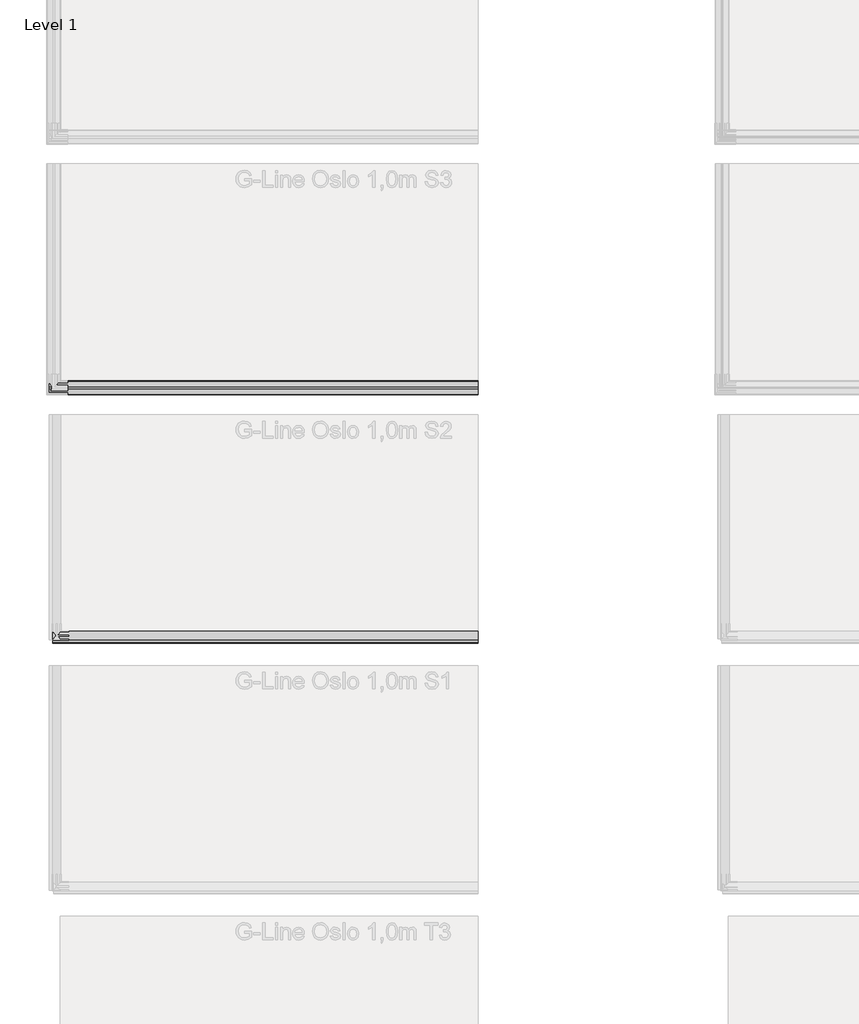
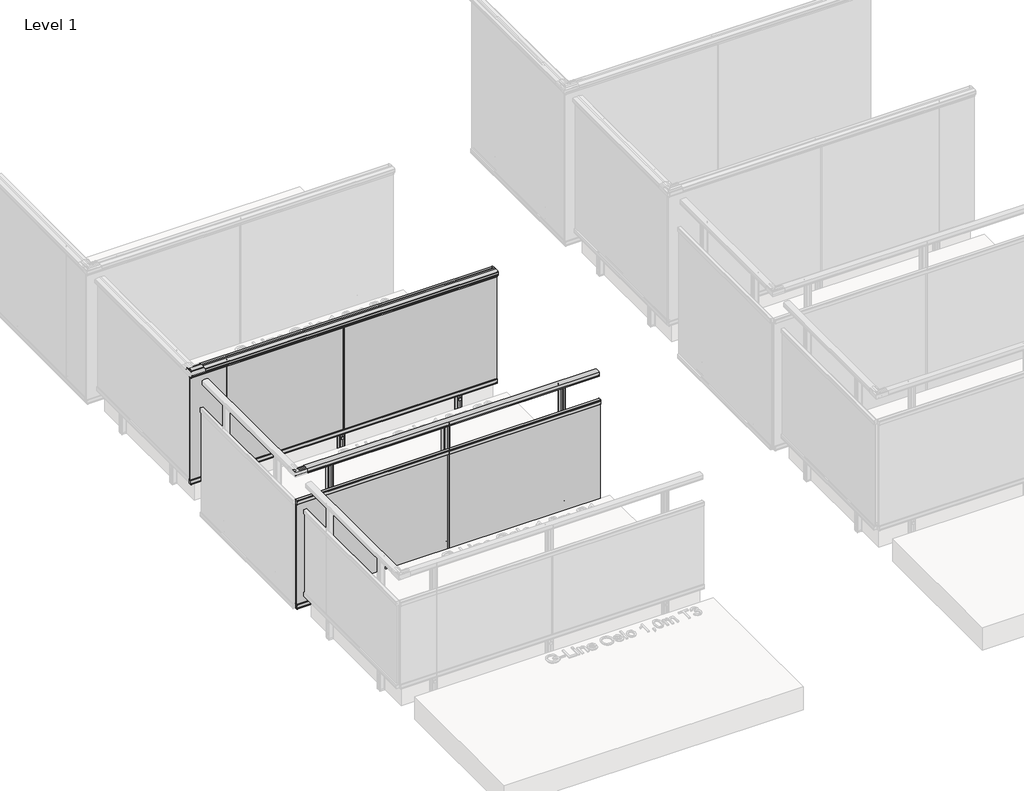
# One storey, part 32 of 66: 2 railings.
"""IFC4 building model written with IfcOpenShell, lengths in millimetres."""

from ifc_helpers import new_model, si_unit, point, frame, frame_2d, origin, origin_with_axes, place, context, project, spatial, polyline, circle_curve, trimmed, segment, composite_curve, outline, extrude, element, save

model = new_model("IFC4")

# Units and contexts
model_context = context("Model", 3, world=origin())
ifc_project = project(units=[si_unit("LENGTHUNIT", "METRE", prefix="MILLI")], contexts=[model_context])

# Site, building, storey
site = spatial("IfcSite", under=ifc_project)
building = spatial("IfcBuilding", under=site)
storey = spatial("IfcBuildingStorey", under=building, Name="Level 1", Elevation=0.0)

# Railings
placement = place(None, origin())
element("IfcRailing", 1, ObjectType="G-Line Oslo 1,0m  S2", at=placement, inside=storey, context=model_context, shape_type="SweptSolid", body=[
    extrude(outline(composite_curve([segment(trimmed(circle_curve(frame_2d((14109.563828, 942.6785502)), 57.3235687), [point((14084.3088677, 994.1390059))], [point((14134.828526, 994.1342258))], False, "CARTESIAN"), True, "CONTINUOUS"), segment(polyline([(14134.828526, 994.1342258), (14134.828526, 967.0235023), (14134.2465942, 966.4415706), (14134.8686753, 965.8194895), (14134.8686753, 957.2498847), (14133.0637224, 957.2498847), (14133.0637224, 980.4998829), (14086.0686763, 980.4998829), (14086.0686763, 957.2498847), (14084.3088677, 957.2498847), (14084.3088677, 965.9694895), (14084.9236507, 966.5842725), (14084.3088677, 967.1990555), (14084.3088677, 994.1390059)]), True, "CONTINUOUS")], self_intersect=False)), frame((4459.0547322, 0.0, 0.0), z_axis=(1.0, 0.0, 0.0), x_axis=(0.0, 1.0, 0.0)), (0.0, 0.0, 1.0), 2545.0),
    extrude(outline(composite_curve([segment(polyline([(14082.0487504, 723.0), (14072.5287505, 723.0), (14065.2886441, 723.0)]), True, "CONTINUOUS"), segment(trimmed(circle_curve(frame_2d((14065.2886441, 723.5)), 0.5), [point((14065.2886441, 723.0))], [point((14064.7886441, 723.5))], False, "CARTESIAN"), True, "CONTINUOUS"), segment(polyline([(14064.7886441, 723.5), (14064.7886441, 751.4642612), (14065.2520415, 752.5008136), (14064.8288365, 753.3802866), (14064.7886441, 758.5)]), True, "CONTINUOUS"), segment(trimmed(circle_curve(frame_2d((14066.2886441, 758.5)), 1.5), [point((14064.7886441, 758.5))], [point((14066.2886441, 760.0))], False, "CARTESIAN"), True, "CONTINUOUS"), segment(polyline([(14066.2886441, 760.0), (14088.2886441, 760.0)]), True, "CONTINUOUS"), segment(trimmed(circle_curve(frame_2d((14088.2886441, 758.5)), 1.5), [point((14088.2886441, 760.0))], [point((14089.7886441, 758.5))], False, "CARTESIAN"), True, "CONTINUOUS"), segment(polyline([(14089.7886441, 758.5), (14089.7886441, 753.5302866), (14089.3252466, 752.5701988), (14089.7484517, 751.6142612), (14089.7484517, 723.6964102)]), True, "CONTINUOUS"), segment(trimmed(circle_curve(frame_2d((14089.2886441, 723.5)), 0.5), [point((14089.7484517, 723.6964102))], [point((14089.2886441, 723.0))], False, "CARTESIAN"), True, "CONTINUOUS"), segment(polyline([(14089.2886441, 723.0), (14082.0487504, 723.0)]), True, "CONTINUOUS")], self_intersect=False)), frame((4459.0547322, 0.0, 0.0), z_axis=(1.0, 0.0, 0.0), x_axis=(0.0, 1.0, 0.0)), (0.0, 0.0, 1.0), 2545.0),
    extrude(outline(polyline([(7004.0547322, 14081.6686441), (7004.0547322, 14072.9086441), (4459.0547322, 14072.9086441), (4459.0547322, 14081.6686441), (7004.0547322, 14081.6686441)])), frame((0.0, 0.0, -200.0), z_axis=(0.0, 0.0, 1.0), x_axis=(1.0, 0.0, 0.0)), (0.0, 0.0, 1.0), 945.0),
    extrude(outline(composite_curve([segment(polyline([(14072.5285377, -163.0), (14082.0485377, -163.0), (14089.2886441, -163.0)]), True, "CONTINUOUS"), segment(trimmed(circle_curve(frame_2d((14089.2886441, -163.5)), 0.5), [point((14089.2886441, -163.0))], [point((14089.7886441, -163.5))], False, "CARTESIAN"), True, "CONTINUOUS"), segment(polyline([(14089.7886441, -163.5), (14089.7886441, -191.4642612), (14089.3252466, -192.5008136), (14089.7484517, -193.3802866), (14089.7886441, -198.5)]), True, "CONTINUOUS"), segment(trimmed(circle_curve(frame_2d((14088.2886441, -198.5)), 1.5), [point((14089.7886441, -198.5))], [point((14088.2886441, -200.0))], False, "CARTESIAN"), True, "CONTINUOUS"), segment(polyline([(14088.2886441, -200.0), (14066.2886441, -200.0)]), True, "CONTINUOUS"), segment(trimmed(circle_curve(frame_2d((14066.2886441, -198.5)), 1.5), [point((14066.2886441, -200.0))], [point((14064.7886441, -198.5))], False, "CARTESIAN"), True, "CONTINUOUS"), segment(polyline([(14064.7886441, -198.5), (14064.7886441, -193.5302866), (14065.2520415, -192.5701988), (14064.8288365, -191.6142612), (14064.8288365, -163.6964102)]), True, "CONTINUOUS"), segment(trimmed(circle_curve(frame_2d((14065.2886441, -163.5)), 0.5), [point((14064.8288365, -163.6964102))], [point((14065.2886441, -163.0))], False, "CARTESIAN"), True, "CONTINUOUS"), segment(polyline([(14065.2886441, -163.0), (14072.5285377, -163.0)]), True, "CONTINUOUS")], self_intersect=False)), frame((4459.0547322, 0.0, 0.0), z_axis=(1.0, 0.0, 0.0), x_axis=(0.0, 1.0, 0.0)), (0.0, 0.0, 1.0), 2545.0),
    extrude(outline(polyline([(5735.5547322, 14070.2118492), (5727.5547322, 14070.2118492), (5727.5547322, 14078.2118492), (5735.5547322, 14078.2118492), (5735.5547322, 14070.2118492)])), frame((0.0, 0.0, -200.0), z_axis=(0.0, 0.0, 1.0), x_axis=(1.0, 0.0, 0.0)), (0.0, 0.0, 1.0), 923.0),
    extrude(outline(composite_curve([segment(trimmed(circle_curve(frame_2d((0.0, -12.0)), 12.0), [point((0.0, -23.9999999))], [point((0.0, 0.0))], False, "CARTESIAN"), True, "CONTINUOUS"), segment(trimmed(circle_curve(frame_2d((0.0, -12.0)), 12.0), [point((0.0, 0.0))], [point((0.0, -23.9999999))], False, "CARTESIAN"), True, "CONTINUOUS")], self_intersect=False)), frame((5743.5650091, 14084.7534315, -175.0), z_axis=(-0.0004029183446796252, 0.9999999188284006, 0.0), x_axis=(0.0, 0.0, 1.0)), (0.0, 0.0, 1.0), 3.0757477),
    extrude(outline(composite_curve([segment(trimmed(circle_curve(frame_2d((0.0, -12.0)), 12.0), [point((0.0, -23.9999999))], [point((0.0, 0.0))], False, "CARTESIAN"), True, "CONTINUOUS"), segment(trimmed(circle_curve(frame_2d((0.0, -12.0)), 12.0), [point((0.0, 0.0))], [point((0.0, -23.9999999))], False, "CARTESIAN"), True, "CONTINUOUS")], self_intersect=False)), frame((5743.5650091, 14084.7534315, -50.0), z_axis=(-0.0004029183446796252, 0.9999999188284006, 0.0), x_axis=(0.0, 0.0, 1.0)), (0.0, 0.0, 1.0), 3.0757477),
    extrude(outline(composite_curve([segment(trimmed(circle_curve(frame_2d((5711.0547322, 14089.7886441)), 2.5), [point((5711.0547322, 14087.2886441))], [point((5708.5547322, 14089.7886441))], False, "CARTESIAN"), True, "CONTINUOUS"), segment(polyline([(5708.5547322, 14089.7886441), (5708.5547322, 14130.7886441)]), True, "CONTINUOUS"), segment(trimmed(circle_curve(frame_2d((5711.0547322, 14130.7886441)), 2.5), [point((5708.5547322, 14130.7886441))], [point((5711.0547322, 14133.2886441))], False, "CARTESIAN"), True, "CONTINUOUS"), segment(polyline([(5711.0547322, 14133.2886441), (5730.6315272, 14133.2886441), (5731.5547322, 14132.365439), (5732.4377449, 14133.2484517), (5752.0547322, 14133.2886441)]), True, "CONTINUOUS"), segment(trimmed(circle_curve(frame_2d((5752.0547322, 14130.7886441)), 2.5), [point((5752.0547322, 14133.2886441))], [point((5754.5547322, 14130.7886441))], False, "CARTESIAN"), True, "CONTINUOUS"), segment(polyline([(5754.5547322, 14130.7886441), (5754.5547322, 14089.7886441)]), True, "CONTINUOUS"), segment(trimmed(circle_curve(frame_2d((5752.0547322, 14089.7886441)), 2.5), [point((5754.5547322, 14089.7886441))], [point((5752.0547322, 14087.2886441))], False, "CARTESIAN"), True, "CONTINUOUS"), segment(polyline([(5752.0547322, 14087.2886441), (5732.4377449, 14087.3288365), (5731.5547322, 14088.2118492), (5730.6717195, 14087.3288365), (5711.0547322, 14087.2886441)]), True, "CONTINUOUS")], self_intersect=False), holes=[composite_curve([segment(trimmed(circle_curve(frame_2d((5749.5547322, 14128.2886441)), 1.0), [point((5750.5547322, 14128.2886441))], [point((5749.5547322, 14129.2886441))], True, "CARTESIAN"), True, "CONTINUOUS"), segment(polyline([(5749.5547322, 14129.2886441), (5713.5547322, 14129.2886441)]), True, "CONTINUOUS"), segment(trimmed(circle_curve(frame_2d((5713.5547322, 14128.2886441)), 1.0), [point((5713.5547322, 14129.2886441))], [point((5712.5547322, 14128.2886441))], True, "CARTESIAN"), True, "CONTINUOUS"), segment(polyline([(5712.5547322, 14128.2886441), (5712.5547322, 14092.2886441)]), True, "CONTINUOUS"), segment(trimmed(circle_curve(frame_2d((5713.5547322, 14092.2886441)), 1.0), [point((5712.5547322, 14092.2886441))], [point((5713.5547322, 14091.2886441))], True, "CARTESIAN"), True, "CONTINUOUS"), segment(polyline([(5713.5547322, 14091.2886441), (5749.5547322, 14091.2886441)]), True, "CONTINUOUS"), segment(trimmed(circle_curve(frame_2d((5749.5547322, 14092.2886441)), 1.0), [point((5749.5547322, 14091.2886441))], [point((5750.5547322, 14092.2886441))], True, "CARTESIAN"), True, "CONTINUOUS"), segment(polyline([(5750.5547322, 14092.2886441), (5750.5547322, 14128.2886441)]), True, "CONTINUOUS")], self_intersect=False)]), frame((0.0, 0.0, -200.0), z_axis=(0.0, 0.0, 1.0), x_axis=(1.0, 0.0, 0.0)), (0.0, 0.0, 1.0), 1181.0),
    extrude(outline(composite_curve([segment(polyline([(4758.2519452, 14130.2886441), (4759.0547322, 14129.4858571), (4759.8225694, 14130.2536942), (4776.8808193, 14130.2886441)]), True, "CONTINUOUS"), segment(trimmed(circle_curve(frame_2d((4776.8808192, 14128.114731)), 2.173913), [point((4776.8808193, 14130.2886441))], [point((4779.0547322, 14128.114731))], False, "CARTESIAN"), True, "CONTINUOUS"), segment(polyline([(4779.0547322, 14128.114731), (4779.0547322, 14092.4625571)]), True, "CONTINUOUS"), segment(trimmed(circle_curve(frame_2d((4776.8808192, 14092.4625571)), 2.173913), [point((4779.0547322, 14092.4625571))], [point((4776.8808192, 14090.2886441))], False, "CARTESIAN"), True, "CONTINUOUS"), segment(polyline([(4776.8808192, 14090.2886441), (4759.8225694, 14090.323594), (4759.0547322, 14091.0914311), (4758.2868951, 14090.323594), (4741.2286453, 14090.2886441)]), True, "CONTINUOUS"), segment(trimmed(circle_curve(frame_2d((4741.2286453, 14092.4625571)), 2.173913), [point((4741.2286453, 14090.2886441))], [point((4739.0547322, 14092.4625571))], False, "CARTESIAN"), True, "CONTINUOUS"), segment(polyline([(4739.0547322, 14092.4625571), (4739.0547322, 14128.114731)]), True, "CONTINUOUS"), segment(trimmed(circle_curve(frame_2d((4741.2286453, 14128.114731)), 2.173913), [point((4739.0547322, 14128.114731))], [point((4741.2286453, 14130.2886441))], False, "CARTESIAN"), True, "CONTINUOUS"), segment(polyline([(4741.2286453, 14130.2886441), (4758.2519452, 14130.2886441)]), True, "CONTINUOUS")], self_intersect=False)), frame((0.0, 0.0, -200.0), z_axis=(0.0, 0.0, 1.0), x_axis=(1.0, 0.0, 0.0)), (0.0, 0.0, 1.0), 10.0),
    extrude(outline(composite_curve([segment(polyline([(4779.0547322, 14128.114731), (4779.0547322, 14092.4625571)]), True, "CONTINUOUS"), segment(trimmed(circle_curve(frame_2d((4776.8808192, 14092.4625571)), 2.173913), [point((4779.0547322, 14092.4625571))], [point((4776.8808192, 14090.2886441))], False, "CARTESIAN"), True, "CONTINUOUS"), segment(polyline([(4776.8808192, 14090.2886441), (4759.8225694, 14090.323594), (4759.0547322, 14091.0914311), (4758.2868951, 14090.323594), (4741.2286453, 14090.2886441)]), True, "CONTINUOUS"), segment(trimmed(circle_curve(frame_2d((4741.2286453, 14092.4625571)), 2.173913), [point((4741.2286453, 14090.2886441))], [point((4739.0547322, 14092.4625571))], False, "CARTESIAN"), True, "CONTINUOUS"), segment(polyline([(4739.0547322, 14092.4625571), (4739.0547322, 14128.114731)]), True, "CONTINUOUS"), segment(trimmed(circle_curve(frame_2d((4741.2286453, 14128.114731)), 2.173913), [point((4739.0547322, 14128.114731))], [point((4741.2286453, 14130.2886441))], False, "CARTESIAN"), True, "CONTINUOUS"), segment(polyline([(4741.2286453, 14130.2886441), (4758.1564603, 14130.2886441), (4758.9242975, 14129.8856898), (4759.8225694, 14130.2536942), (4776.8808192, 14130.2886441)]), True, "CONTINUOUS"), segment(trimmed(circle_curve(frame_2d((4776.8808192, 14128.114731)), 2.173913), [point((4776.8808192, 14130.2886441))], [point((4779.0547322, 14128.114731))], False, "CARTESIAN"), True, "CONTINUOUS")], self_intersect=False), holes=[composite_curve([segment(trimmed(circle_curve(frame_2d((4774.7069062, 14125.940818)), 0.8695652), [point((4775.5764714, 14125.940818))], [point((4774.7069062, 14126.8103832))], True, "CARTESIAN"), True, "CONTINUOUS"), segment(polyline([(4774.7069062, 14126.8103832), (4743.4025583, 14126.8103832)]), True, "CONTINUOUS"), segment(trimmed(circle_curve(frame_2d((4743.4025583, 14125.940818)), 0.8695652), [point((4743.4025583, 14126.8103832))], [point((4742.5329931, 14125.940818))], True, "CARTESIAN"), True, "CONTINUOUS"), segment(polyline([(4742.5329931, 14125.940818), (4742.5329931, 14094.6364702)]), True, "CONTINUOUS"), segment(trimmed(circle_curve(frame_2d((4743.4025583, 14094.6364702)), 0.8695652), [point((4742.5329931, 14094.6364702))], [point((4743.4025583, 14093.766905))], True, "CARTESIAN"), True, "CONTINUOUS"), segment(polyline([(4743.4025583, 14093.766905), (4774.7069062, 14093.766905)]), True, "CONTINUOUS"), segment(trimmed(circle_curve(frame_2d((4774.7069062, 14094.6364702)), 0.8695652), [point((4774.7069062, 14093.766905))], [point((4775.5764714, 14094.6364702))], True, "CARTESIAN"), True, "CONTINUOUS"), segment(polyline([(4775.5764714, 14094.6364702), (4775.5764714, 14125.940818)]), True, "CONTINUOUS")], self_intersect=False)]), frame((0.0, 0.0, -190.0), z_axis=(0.0, 0.0, 1.0), x_axis=(1.0, 0.0, 0.0)), (0.0, 0.0, 1.0), 1171.0),
    extrude(outline(composite_curve([segment(trimmed(circle_curve(frame_2d((0.0, -12.0)), 12.0), [point((0.0, -23.9999999))], [point((0.0, 0.0))], False, "CARTESIAN"), True, "CONTINUOUS"), segment(trimmed(circle_curve(frame_2d((0.0, -12.0)), 12.0), [point((0.0, 0.0))], [point((0.0, -23.9999999))], False, "CARTESIAN"), True, "CONTINUOUS")], self_intersect=False)), frame((4771.0650091, 14087.2248149, -151.0), z_axis=(-0.0004029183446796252, 0.9999999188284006, 0.0), x_axis=(0.0, 0.0, 1.0)), (0.0, 0.0, 1.0), 3.0757477),
    extrude(outline(composite_curve([segment(trimmed(circle_curve(frame_2d((0.0, -12.0)), 12.0), [point((0.0, -23.9999999))], [point((0.0, 0.0))], False, "CARTESIAN"), True, "CONTINUOUS"), segment(trimmed(circle_curve(frame_2d((0.0, -12.0)), 12.0), [point((0.0, 0.0))], [point((0.0, -23.9999999))], False, "CARTESIAN"), True, "CONTINUOUS")], self_intersect=False)), frame((4771.0650091, 14087.2248149, -50.0), z_axis=(-0.0004029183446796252, 0.9999999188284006, 0.0), x_axis=(0.0, 0.0, 1.0)), (0.0, 0.0, 1.0), 3.0757477),
    extrude(outline(composite_curve([segment(polyline([(6703.2519452, 14130.2886441), (6704.0547322, 14129.4858571), (6704.8225694, 14130.2536942), (6721.8808193, 14130.2886441)]), True, "CONTINUOUS"), segment(trimmed(circle_curve(frame_2d((6721.8808192, 14128.114731)), 2.173913), [point((6721.8808193, 14130.2886441))], [point((6724.0547322, 14128.114731))], False, "CARTESIAN"), True, "CONTINUOUS"), segment(polyline([(6724.0547322, 14128.114731), (6724.0547322, 14092.4625571)]), True, "CONTINUOUS"), segment(trimmed(circle_curve(frame_2d((6721.8808192, 14092.4625571)), 2.173913), [point((6724.0547322, 14092.4625571))], [point((6721.8808192, 14090.2886441))], False, "CARTESIAN"), True, "CONTINUOUS"), segment(polyline([(6721.8808192, 14090.2886441), (6704.8225694, 14090.323594), (6704.0547322, 14091.0914311), (6703.2868951, 14090.323594), (6686.2286453, 14090.2886441)]), True, "CONTINUOUS"), segment(trimmed(circle_curve(frame_2d((6686.2286453, 14092.4625571)), 2.173913), [point((6686.2286453, 14090.2886441))], [point((6684.0547322, 14092.4625571))], False, "CARTESIAN"), True, "CONTINUOUS"), segment(polyline([(6684.0547322, 14092.4625571), (6684.0547322, 14128.114731)]), True, "CONTINUOUS"), segment(trimmed(circle_curve(frame_2d((6686.2286453, 14128.114731)), 2.173913), [point((6684.0547322, 14128.114731))], [point((6686.2286453, 14130.2886441))], False, "CARTESIAN"), True, "CONTINUOUS"), segment(polyline([(6686.2286453, 14130.2886441), (6703.2519452, 14130.2886441)]), True, "CONTINUOUS")], self_intersect=False)), frame((0.0, 0.0, -200.0), z_axis=(0.0, 0.0, 1.0), x_axis=(1.0, 0.0, 0.0)), (0.0, 0.0, 1.0), 10.0),
    extrude(outline(composite_curve([segment(polyline([(6724.0547322, 14128.114731), (6724.0547322, 14092.4625571)]), True, "CONTINUOUS"), segment(trimmed(circle_curve(frame_2d((6721.8808192, 14092.4625571)), 2.173913), [point((6724.0547322, 14092.4625571))], [point((6721.8808192, 14090.2886441))], False, "CARTESIAN"), True, "CONTINUOUS"), segment(polyline([(6721.8808192, 14090.2886441), (6704.8225694, 14090.323594), (6704.0547322, 14091.0914311), (6703.2868951, 14090.323594), (6686.2286453, 14090.2886441)]), True, "CONTINUOUS"), segment(trimmed(circle_curve(frame_2d((6686.2286453, 14092.4625571)), 2.173913), [point((6686.2286453, 14090.2886441))], [point((6684.0547322, 14092.4625571))], False, "CARTESIAN"), True, "CONTINUOUS"), segment(polyline([(6684.0547322, 14092.4625571), (6684.0547322, 14128.114731)]), True, "CONTINUOUS"), segment(trimmed(circle_curve(frame_2d((6686.2286453, 14128.114731)), 2.173913), [point((6684.0547322, 14128.114731))], [point((6686.2286453, 14130.2886441))], False, "CARTESIAN"), True, "CONTINUOUS"), segment(polyline([(6686.2286453, 14130.2886441), (6703.1564603, 14130.2886441), (6703.9242975, 14129.8856898), (6704.8225694, 14130.2536942), (6721.8808192, 14130.2886441)]), True, "CONTINUOUS"), segment(trimmed(circle_curve(frame_2d((6721.8808192, 14128.114731)), 2.173913), [point((6721.8808192, 14130.2886441))], [point((6724.0547322, 14128.114731))], False, "CARTESIAN"), True, "CONTINUOUS")], self_intersect=False), holes=[composite_curve([segment(trimmed(circle_curve(frame_2d((6719.7069062, 14125.940818)), 0.8695652), [point((6720.5764714, 14125.940818))], [point((6719.7069062, 14126.8103832))], True, "CARTESIAN"), True, "CONTINUOUS"), segment(polyline([(6719.7069062, 14126.8103832), (6688.4025583, 14126.8103832)]), True, "CONTINUOUS"), segment(trimmed(circle_curve(frame_2d((6688.4025583, 14125.940818)), 0.8695652), [point((6688.4025583, 14126.8103832))], [point((6687.5329931, 14125.940818))], True, "CARTESIAN"), True, "CONTINUOUS"), segment(polyline([(6687.5329931, 14125.940818), (6687.5329931, 14094.6364702)]), True, "CONTINUOUS"), segment(trimmed(circle_curve(frame_2d((6688.4025583, 14094.6364702)), 0.8695652), [point((6687.5329931, 14094.6364702))], [point((6688.4025583, 14093.766905))], True, "CARTESIAN"), True, "CONTINUOUS"), segment(polyline([(6688.4025583, 14093.766905), (6719.7069062, 14093.766905)]), True, "CONTINUOUS"), segment(trimmed(circle_curve(frame_2d((6719.7069062, 14094.6364702)), 0.8695652), [point((6719.7069062, 14093.766905))], [point((6720.5764714, 14094.6364702))], True, "CARTESIAN"), True, "CONTINUOUS"), segment(polyline([(6720.5764714, 14094.6364702), (6720.5764714, 14125.940818)]), True, "CONTINUOUS")], self_intersect=False)]), frame((0.0, 0.0, -190.0), z_axis=(0.0, 0.0, 1.0), x_axis=(1.0, 0.0, 0.0)), (0.0, 0.0, 1.0), 1171.0),
    extrude(outline(composite_curve([segment(trimmed(circle_curve(frame_2d((0.0, -12.0)), 12.0), [point((0.0, -23.9999999))], [point((0.0, 0.0))], False, "CARTESIAN"), True, "CONTINUOUS"), segment(trimmed(circle_curve(frame_2d((0.0, -12.0)), 12.0), [point((0.0, 0.0))], [point((0.0, -23.9999999))], False, "CARTESIAN"), True, "CONTINUOUS")], self_intersect=False)), frame((6716.0650091, 14087.2248149, -151.0), z_axis=(-0.0004029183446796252, 0.9999999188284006, 0.0), x_axis=(0.0, 0.0, 1.0)), (0.0, 0.0, 1.0), 3.0757477),
    extrude(outline(composite_curve([segment(trimmed(circle_curve(frame_2d((0.0, -12.0)), 12.0), [point((0.0, -23.9999999))], [point((0.0, 0.0))], False, "CARTESIAN"), True, "CONTINUOUS"), segment(trimmed(circle_curve(frame_2d((0.0, -12.0)), 12.0), [point((0.0, 0.0))], [point((0.0, -23.9999999))], False, "CARTESIAN"), True, "CONTINUOUS")], self_intersect=False)), frame((6716.0650091, 14087.2248149, -50.0), z_axis=(-0.0004029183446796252, 0.9999999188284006, 0.0), x_axis=(0.0, 0.0, 1.0)), (0.0, 0.0, 1.0), 3.0757477),
])
element("IfcRailing", 2, ObjectType="G-Line Oslo 1,0m  S3", at=placement, inside=storey, context=model_context, shape_type="SweptSolid", body=[
    extrude(outline(composite_curve([segment(polyline([(15632.289348, 970.6825033), (15631.6638671, 970.0570224), (15632.2491556, 969.4717338), (15632.289348, 965.5021186)]), True, "CONTINUOUS"), segment(trimmed(circle_curve(frame_2d((15631.789348, 965.5021186)), 0.5), [point((15632.289348, 965.5021186))], [point((15631.789348, 965.0021186))], False, "CARTESIAN"), True, "CONTINUOUS"), segment(polyline([(15631.789348, 965.0021186), (15630.789348, 965.0021186), (15630.789348, 979.5021186)]), True, "CONTINUOUS"), segment(trimmed(circle_curve(frame_2d((15630.289348, 979.5021186)), 0.5), [point((15630.789348, 979.5021186))], [point((15630.289348, 980.0021186))], True, "CARTESIAN"), True, "CONTINUOUS"), segment(polyline([(15630.289348, 980.0021186), (15552.289348, 980.0021186)]), True, "CONTINUOUS"), segment(trimmed(circle_curve(frame_2d((15552.289348, 979.5021186)), 0.5), [point((15552.289348, 980.0021186))], [point((15551.789348, 979.5021186))], True, "CARTESIAN"), True, "CONTINUOUS"), segment(polyline([(15551.789348, 979.5021186), (15551.789348, 965.0021186), (15550.789348, 965.0021186)]), True, "CONTINUOUS"), segment(trimmed(circle_curve(frame_2d((15550.789348, 965.5021186)), 0.5), [point((15550.789348, 965.0021186))], [point((15550.289348, 965.5021186))], False, "CARTESIAN"), True, "CONTINUOUS"), segment(polyline([(15550.289348, 965.5021186), (15550.289348, 969.2627449), (15550.9443234, 969.9177203), (15550.3295404, 970.5325033), (15550.289348, 991.2139911)]), True, "CONTINUOUS"), segment(trimmed(circle_curve(frame_2d((15553.289348, 991.2139911)), 3.0), [point((15550.289348, 991.2139911))], [point((15552.2228567, 994.0180233))], False, "CARTESIAN"), True, "CONTINUOUS"), segment(trimmed(circle_curve(frame_2d((15584.789348, 908.3938053)), 91.6083133), [point((15552.2228567, 994.0180233))], [point((15584.789348, 1000.0021186))], False, "CARTESIAN"), True, "CONTINUOUS"), segment(polyline([(15584.789348, 1000.0021186), (15597.789348, 1000.0021186)]), True, "CONTINUOUS"), segment(trimmed(circle_curve(frame_2d((15597.789348, 908.3938053)), 91.6083133), [point((15597.789348, 1000.0021186))], [point((15630.3558394, 994.0180233))], False, "CARTESIAN"), True, "CONTINUOUS"), segment(trimmed(circle_curve(frame_2d((15629.289348, 991.2139911)), 3.0), [point((15630.3558394, 994.0180233))], [point((15632.289348, 991.2139911))], False, "CARTESIAN"), True, "CONTINUOUS"), segment(polyline([(15632.289348, 991.2139911), (15632.289348, 970.6825033)]), True, "CONTINUOUS")], self_intersect=False)), frame((4438.5547322, 0.0, 0.0), z_axis=(1.0, 0.0, 0.0), x_axis=(0.0, 1.0, 0.0)), (0.0, 0.0, 1.0), 2565.5),
    extrude(outline(composite_curve([segment(polyline([(15582.0487504, 941.0), (15572.5287505, 941.0), (15565.2886441, 941.0)]), True, "CONTINUOUS"), segment(trimmed(circle_curve(frame_2d((15565.2886441, 941.5)), 0.5), [point((15565.2886441, 941.0))], [point((15564.7886441, 941.5))], False, "CARTESIAN"), True, "CONTINUOUS"), segment(polyline([(15564.7886441, 941.5), (15564.7886441, 969.4642612), (15565.2520415, 970.5008136), (15564.8288365, 971.3802866), (15564.7886441, 976.5)]), True, "CONTINUOUS"), segment(trimmed(circle_curve(frame_2d((15566.2886441, 976.5)), 1.5), [point((15564.7886441, 976.5))], [point((15566.2886441, 978.0))], False, "CARTESIAN"), True, "CONTINUOUS"), segment(polyline([(15566.2886441, 978.0), (15588.2886441, 978.0)]), True, "CONTINUOUS"), segment(trimmed(circle_curve(frame_2d((15588.2886441, 976.5)), 1.5), [point((15588.2886441, 978.0))], [point((15589.7886441, 976.5))], False, "CARTESIAN"), True, "CONTINUOUS"), segment(polyline([(15589.7886441, 976.5), (15589.7886441, 971.5302866), (15589.3252466, 970.5701988), (15589.7484517, 969.6142612), (15589.7484517, 941.6964102)]), True, "CONTINUOUS"), segment(trimmed(circle_curve(frame_2d((15589.2886441, 941.5)), 0.5), [point((15589.7484517, 941.6964102))], [point((15589.2886441, 941.0))], False, "CARTESIAN"), True, "CONTINUOUS"), segment(polyline([(15589.2886441, 941.0), (15582.0487504, 941.0)]), True, "CONTINUOUS")], self_intersect=False)), frame((4438.5547322, 0.0, 0.0), z_axis=(1.0, 0.0, 0.0), x_axis=(0.0, 1.0, 0.0)), (0.0, 0.0, 1.0), 2565.5),
    extrude(outline(polyline([(7004.0547322, 15581.6686441), (7004.0547322, 15572.9086441), (4438.5547322, 15572.9086441), (4438.5547322, 15581.6686441), (7004.0547322, 15581.6686441)])), frame((0.0, 0.0, 28.0), z_axis=(0.0, 0.0, 1.0), x_axis=(1.0, 0.0, 0.0)), (0.0, 0.0, 1.0), 952.0),
    extrude(outline(composite_curve([segment(polyline([(15572.5285377, 37.0), (15582.0485377, 37.0), (15589.2886441, 37.0)]), True, "CONTINUOUS"), segment(trimmed(circle_curve(frame_2d((15589.2886441, 36.5)), 0.5), [point((15589.2886441, 37.0))], [point((15589.7886441, 36.5))], False, "CARTESIAN"), True, "CONTINUOUS"), segment(polyline([(15589.7886441, 36.5), (15589.7886441, 8.5357388), (15589.3252466, 7.4991864), (15589.7484517, 6.6197134), (15589.7886441, 1.5)]), True, "CONTINUOUS"), segment(trimmed(circle_curve(frame_2d((15588.2886441, 1.5)), 1.5), [point((15589.7886441, 1.5))], [point((15588.2886441, 0.0))], False, "CARTESIAN"), True, "CONTINUOUS"), segment(polyline([(15588.2886441, 0.0), (15566.2886441, 0.0)]), True, "CONTINUOUS"), segment(trimmed(circle_curve(frame_2d((15566.2886441, 1.5)), 1.5), [point((15566.2886441, 0.0))], [point((15564.7886441, 1.5))], False, "CARTESIAN"), True, "CONTINUOUS"), segment(polyline([(15564.7886441, 1.5), (15564.7886441, 6.4697134), (15565.2520415, 7.4298012), (15564.8288365, 8.3857388), (15564.8288365, 36.3035898)]), True, "CONTINUOUS"), segment(trimmed(circle_curve(frame_2d((15565.2886441, 36.5)), 0.5), [point((15564.8288365, 36.3035898))], [point((15565.2886441, 37.0))], False, "CARTESIAN"), True, "CONTINUOUS"), segment(polyline([(15565.2886441, 37.0), (15572.5285377, 37.0)]), True, "CONTINUOUS")], self_intersect=False)), frame((4438.5547322, 0.0, 0.0), z_axis=(1.0, 0.0, 0.0), x_axis=(0.0, 1.0, 0.0)), (0.0, 0.0, 1.0), 2565.5),
    extrude(outline(polyline([(5725.3047322, 15570.2118492), (5717.3047322, 15570.2118492), (5717.3047322, 15578.2118492), (5725.3047322, 15578.2118492), (5725.3047322, 15570.2118492)])), origin_with_axes(), (0.0, 0.0, 1.0), 941.0),
    extrude(outline(composite_curve([segment(polyline([(5720.5019452, 15630.2886441), (5721.3047322, 15629.4858571), (5722.0725694, 15630.2536942), (5739.1308193, 15630.2886441)]), True, "CONTINUOUS"), segment(trimmed(circle_curve(frame_2d((5739.1308192, 15628.114731)), 2.173913), [point((5739.1308193, 15630.2886441))], [point((5741.3047322, 15628.114731))], False, "CARTESIAN"), True, "CONTINUOUS"), segment(polyline([(5741.3047322, 15628.114731), (5741.3047322, 15592.4625571)]), True, "CONTINUOUS"), segment(trimmed(circle_curve(frame_2d((5739.1308192, 15592.4625571)), 2.173913), [point((5741.3047322, 15592.4625571))], [point((5739.1308192, 15590.2886441))], False, "CARTESIAN"), True, "CONTINUOUS"), segment(polyline([(5739.1308192, 15590.2886441), (5722.0725694, 15590.323594), (5721.3047322, 15591.0914311), (5720.5368951, 15590.323594), (5703.4786453, 15590.2886441)]), True, "CONTINUOUS"), segment(trimmed(circle_curve(frame_2d((5703.4786453, 15592.4625571)), 2.173913), [point((5703.4786453, 15590.2886441))], [point((5701.3047322, 15592.4625571))], False, "CARTESIAN"), True, "CONTINUOUS"), segment(polyline([(5701.3047322, 15592.4625571), (5701.3047322, 15628.114731)]), True, "CONTINUOUS"), segment(trimmed(circle_curve(frame_2d((5703.4786453, 15628.114731)), 2.173913), [point((5701.3047322, 15628.114731))], [point((5703.4786453, 15630.2886441))], False, "CARTESIAN"), True, "CONTINUOUS"), segment(polyline([(5703.4786453, 15630.2886441), (5720.5019452, 15630.2886441)]), True, "CONTINUOUS")], self_intersect=False)), frame((0.0, 0.0, -200.0), z_axis=(0.0, 0.0, 1.0), x_axis=(1.0, 0.0, 0.0)), (0.0, 0.0, 1.0), 10.0),
    extrude(outline(composite_curve([segment(polyline([(5741.3047322, 15628.114731), (5741.3047322, 15592.4625571)]), True, "CONTINUOUS"), segment(trimmed(circle_curve(frame_2d((5739.1308192, 15592.4625571)), 2.173913), [point((5741.3047322, 15592.4625571))], [point((5739.1308192, 15590.2886441))], False, "CARTESIAN"), True, "CONTINUOUS"), segment(polyline([(5739.1308192, 15590.2886441), (5722.0725694, 15590.323594), (5721.3047322, 15591.0914311), (5720.5368951, 15590.323594), (5703.4786453, 15590.2886441)]), True, "CONTINUOUS"), segment(trimmed(circle_curve(frame_2d((5703.4786453, 15592.4625571)), 2.173913), [point((5703.4786453, 15590.2886441))], [point((5701.3047322, 15592.4625571))], False, "CARTESIAN"), True, "CONTINUOUS"), segment(polyline([(5701.3047322, 15592.4625571), (5701.3047322, 15628.114731)]), True, "CONTINUOUS"), segment(trimmed(circle_curve(frame_2d((5703.4786453, 15628.114731)), 2.173913), [point((5701.3047322, 15628.114731))], [point((5703.4786453, 15630.2886441))], False, "CARTESIAN"), True, "CONTINUOUS"), segment(polyline([(5703.4786453, 15630.2886441), (5720.4064603, 15630.2886441), (5721.1742975, 15629.8856898), (5722.0725694, 15630.2536942), (5739.1308192, 15630.2886441)]), True, "CONTINUOUS"), segment(trimmed(circle_curve(frame_2d((5739.1308192, 15628.114731)), 2.173913), [point((5739.1308192, 15630.2886441))], [point((5741.3047322, 15628.114731))], False, "CARTESIAN"), True, "CONTINUOUS")], self_intersect=False), holes=[composite_curve([segment(trimmed(circle_curve(frame_2d((5736.9569062, 15625.940818)), 0.8695652), [point((5737.8264714, 15625.940818))], [point((5736.9569062, 15626.8103832))], True, "CARTESIAN"), True, "CONTINUOUS"), segment(polyline([(5736.9569062, 15626.8103832), (5705.6525583, 15626.8103832)]), True, "CONTINUOUS"), segment(trimmed(circle_curve(frame_2d((5705.6525583, 15625.940818)), 0.8695652), [point((5705.6525583, 15626.8103832))], [point((5704.7829931, 15625.940818))], True, "CARTESIAN"), True, "CONTINUOUS"), segment(polyline([(5704.7829931, 15625.940818), (5704.7829931, 15594.6364702)]), True, "CONTINUOUS"), segment(trimmed(circle_curve(frame_2d((5705.6525583, 15594.6364702)), 0.8695652), [point((5704.7829931, 15594.6364702))], [point((5705.6525583, 15593.766905))], True, "CARTESIAN"), True, "CONTINUOUS"), segment(polyline([(5705.6525583, 15593.766905), (5736.9569062, 15593.766905)]), True, "CONTINUOUS"), segment(trimmed(circle_curve(frame_2d((5736.9569062, 15594.6364702)), 0.8695652), [point((5736.9569062, 15593.766905))], [point((5737.8264714, 15594.6364702))], True, "CARTESIAN"), True, "CONTINUOUS"), segment(polyline([(5737.8264714, 15594.6364702), (5737.8264714, 15625.940818)]), True, "CONTINUOUS")], self_intersect=False)]), frame((0.0, 0.0, -190.0), z_axis=(0.0, 0.0, 1.0), x_axis=(1.0, 0.0, 0.0)), (0.0, 0.0, 1.0), 1171.0),
    extrude(outline(composite_curve([segment(trimmed(circle_curve(frame_2d((0.0, -12.0)), 12.0), [point((0.0, -23.9999999))], [point((0.0, 0.0))], False, "CARTESIAN"), True, "CONTINUOUS"), segment(trimmed(circle_curve(frame_2d((0.0, -12.0)), 12.0), [point((0.0, 0.0))], [point((0.0, -23.9999999))], False, "CARTESIAN"), True, "CONTINUOUS")], self_intersect=False)), frame((5733.3150091, 15587.2248149, -151.0), z_axis=(-0.0004029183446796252, 0.9999999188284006, 0.0), x_axis=(0.0, 0.0, 1.0)), (0.0, 0.0, 1.0), 3.0757477),
    extrude(outline(composite_curve([segment(trimmed(circle_curve(frame_2d((0.0, -12.0)), 12.0), [point((0.0, -23.9999999))], [point((0.0, 0.0))], False, "CARTESIAN"), True, "CONTINUOUS"), segment(trimmed(circle_curve(frame_2d((0.0, -12.0)), 12.0), [point((0.0, 0.0))], [point((0.0, -23.9999999))], False, "CARTESIAN"), True, "CONTINUOUS")], self_intersect=False)), frame((5733.3150091, 15587.2248149, -50.0), z_axis=(-0.0004029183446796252, 0.9999999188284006, 0.0), x_axis=(0.0, 0.0, 1.0)), (0.0, 0.0, 1.0), 3.0757477),
    extrude(outline(composite_curve([segment(polyline([(4737.7519452, 15630.2886441), (4738.5547322, 15629.4858571), (4739.3225694, 15630.2536942), (4756.3808193, 15630.2886441)]), True, "CONTINUOUS"), segment(trimmed(circle_curve(frame_2d((4756.3808192, 15628.114731)), 2.173913), [point((4756.3808193, 15630.2886441))], [point((4758.5547322, 15628.114731))], False, "CARTESIAN"), True, "CONTINUOUS"), segment(polyline([(4758.5547322, 15628.114731), (4758.5547322, 15592.4625571)]), True, "CONTINUOUS"), segment(trimmed(circle_curve(frame_2d((4756.3808192, 15592.4625571)), 2.173913), [point((4758.5547322, 15592.4625571))], [point((4756.3808192, 15590.2886441))], False, "CARTESIAN"), True, "CONTINUOUS"), segment(polyline([(4756.3808192, 15590.2886441), (4739.3225694, 15590.323594), (4738.5547322, 15591.0914311), (4737.7868951, 15590.323594), (4720.7286453, 15590.2886441)]), True, "CONTINUOUS"), segment(trimmed(circle_curve(frame_2d((4720.7286453, 15592.4625571)), 2.173913), [point((4720.7286453, 15590.2886441))], [point((4718.5547322, 15592.4625571))], False, "CARTESIAN"), True, "CONTINUOUS"), segment(polyline([(4718.5547322, 15592.4625571), (4718.5547322, 15628.114731)]), True, "CONTINUOUS"), segment(trimmed(circle_curve(frame_2d((4720.7286453, 15628.114731)), 2.173913), [point((4718.5547322, 15628.114731))], [point((4720.7286453, 15630.2886441))], False, "CARTESIAN"), True, "CONTINUOUS"), segment(polyline([(4720.7286453, 15630.2886441), (4737.7519452, 15630.2886441)]), True, "CONTINUOUS")], self_intersect=False)), frame((0.0, 0.0, -200.0), z_axis=(0.0, 0.0, 1.0), x_axis=(1.0, 0.0, 0.0)), (0.0, 0.0, 1.0), 10.0),
    extrude(outline(composite_curve([segment(polyline([(4758.5547322, 15628.114731), (4758.5547322, 15592.4625571)]), True, "CONTINUOUS"), segment(trimmed(circle_curve(frame_2d((4756.3808192, 15592.4625571)), 2.173913), [point((4758.5547322, 15592.4625571))], [point((4756.3808192, 15590.2886441))], False, "CARTESIAN"), True, "CONTINUOUS"), segment(polyline([(4756.3808192, 15590.2886441), (4739.3225694, 15590.323594), (4738.5547322, 15591.0914311), (4737.7868951, 15590.323594), (4720.7286453, 15590.2886441)]), True, "CONTINUOUS"), segment(trimmed(circle_curve(frame_2d((4720.7286453, 15592.4625571)), 2.173913), [point((4720.7286453, 15590.2886441))], [point((4718.5547322, 15592.4625571))], False, "CARTESIAN"), True, "CONTINUOUS"), segment(polyline([(4718.5547322, 15592.4625571), (4718.5547322, 15628.114731)]), True, "CONTINUOUS"), segment(trimmed(circle_curve(frame_2d((4720.7286453, 15628.114731)), 2.173913), [point((4718.5547322, 15628.114731))], [point((4720.7286453, 15630.2886441))], False, "CARTESIAN"), True, "CONTINUOUS"), segment(polyline([(4720.7286453, 15630.2886441), (4737.6564603, 15630.2886441), (4738.4242975, 15629.8856898), (4739.3225694, 15630.2536942), (4756.3808192, 15630.2886441)]), True, "CONTINUOUS"), segment(trimmed(circle_curve(frame_2d((4756.3808192, 15628.114731)), 2.173913), [point((4756.3808192, 15630.2886441))], [point((4758.5547322, 15628.114731))], False, "CARTESIAN"), True, "CONTINUOUS")], self_intersect=False), holes=[composite_curve([segment(trimmed(circle_curve(frame_2d((4754.2069062, 15625.940818)), 0.8695652), [point((4755.0764714, 15625.940818))], [point((4754.2069062, 15626.8103832))], True, "CARTESIAN"), True, "CONTINUOUS"), segment(polyline([(4754.2069062, 15626.8103832), (4722.9025583, 15626.8103832)]), True, "CONTINUOUS"), segment(trimmed(circle_curve(frame_2d((4722.9025583, 15625.940818)), 0.8695652), [point((4722.9025583, 15626.8103832))], [point((4722.0329931, 15625.940818))], True, "CARTESIAN"), True, "CONTINUOUS"), segment(polyline([(4722.0329931, 15625.940818), (4722.0329931, 15594.6364702)]), True, "CONTINUOUS"), segment(trimmed(circle_curve(frame_2d((4722.9025583, 15594.6364702)), 0.8695652), [point((4722.0329931, 15594.6364702))], [point((4722.9025583, 15593.766905))], True, "CARTESIAN"), True, "CONTINUOUS"), segment(polyline([(4722.9025583, 15593.766905), (4754.2069062, 15593.766905)]), True, "CONTINUOUS"), segment(trimmed(circle_curve(frame_2d((4754.2069062, 15594.6364702)), 0.8695652), [point((4754.2069062, 15593.766905))], [point((4755.0764714, 15594.6364702))], True, "CARTESIAN"), True, "CONTINUOUS"), segment(polyline([(4755.0764714, 15594.6364702), (4755.0764714, 15625.940818)]), True, "CONTINUOUS")], self_intersect=False)]), frame((0.0, 0.0, -190.0), z_axis=(0.0, 0.0, 1.0), x_axis=(1.0, 0.0, 0.0)), (0.0, 0.0, 1.0), 1171.0),
    extrude(outline(composite_curve([segment(trimmed(circle_curve(frame_2d((0.0, -12.0)), 12.0), [point((0.0, -23.9999999))], [point((0.0, 0.0))], False, "CARTESIAN"), True, "CONTINUOUS"), segment(trimmed(circle_curve(frame_2d((0.0, -12.0)), 12.0), [point((0.0, 0.0))], [point((0.0, -23.9999999))], False, "CARTESIAN"), True, "CONTINUOUS")], self_intersect=False)), frame((4750.5650091, 15587.2248149, -151.0), z_axis=(-0.0004029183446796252, 0.9999999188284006, 0.0), x_axis=(0.0, 0.0, 1.0)), (0.0, 0.0, 1.0), 3.0757477),
    extrude(outline(composite_curve([segment(trimmed(circle_curve(frame_2d((0.0, -12.0)), 12.0), [point((0.0, -23.9999999))], [point((0.0, 0.0))], False, "CARTESIAN"), True, "CONTINUOUS"), segment(trimmed(circle_curve(frame_2d((0.0, -12.0)), 12.0), [point((0.0, 0.0))], [point((0.0, -23.9999999))], False, "CARTESIAN"), True, "CONTINUOUS")], self_intersect=False)), frame((4750.5650091, 15587.2248149, -50.0), z_axis=(-0.0004029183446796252, 0.9999999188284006, 0.0), x_axis=(0.0, 0.0, 1.0)), (0.0, 0.0, 1.0), 3.0757477),
    extrude(outline(composite_curve([segment(polyline([(6703.2519452, 15630.2886441), (6704.0547322, 15629.4858571), (6704.8225694, 15630.2536942), (6721.8808193, 15630.2886441)]), True, "CONTINUOUS"), segment(trimmed(circle_curve(frame_2d((6721.8808192, 15628.114731)), 2.173913), [point((6721.8808193, 15630.2886441))], [point((6724.0547322, 15628.114731))], False, "CARTESIAN"), True, "CONTINUOUS"), segment(polyline([(6724.0547322, 15628.114731), (6724.0547322, 15592.4625571)]), True, "CONTINUOUS"), segment(trimmed(circle_curve(frame_2d((6721.8808192, 15592.4625571)), 2.173913), [point((6724.0547322, 15592.4625571))], [point((6721.8808192, 15590.2886441))], False, "CARTESIAN"), True, "CONTINUOUS"), segment(polyline([(6721.8808192, 15590.2886441), (6704.8225694, 15590.323594), (6704.0547322, 15591.0914311), (6703.2868951, 15590.323594), (6686.2286453, 15590.2886441)]), True, "CONTINUOUS"), segment(trimmed(circle_curve(frame_2d((6686.2286453, 15592.4625571)), 2.173913), [point((6686.2286453, 15590.2886441))], [point((6684.0547322, 15592.4625571))], False, "CARTESIAN"), True, "CONTINUOUS"), segment(polyline([(6684.0547322, 15592.4625571), (6684.0547322, 15628.114731)]), True, "CONTINUOUS"), segment(trimmed(circle_curve(frame_2d((6686.2286453, 15628.114731)), 2.173913), [point((6684.0547322, 15628.114731))], [point((6686.2286453, 15630.2886441))], False, "CARTESIAN"), True, "CONTINUOUS"), segment(polyline([(6686.2286453, 15630.2886441), (6703.2519452, 15630.2886441)]), True, "CONTINUOUS")], self_intersect=False)), frame((0.0, 0.0, -200.0), z_axis=(0.0, 0.0, 1.0), x_axis=(1.0, 0.0, 0.0)), (0.0, 0.0, 1.0), 10.0),
    extrude(outline(composite_curve([segment(polyline([(6724.0547322, 15628.114731), (6724.0547322, 15592.4625571)]), True, "CONTINUOUS"), segment(trimmed(circle_curve(frame_2d((6721.8808192, 15592.4625571)), 2.173913), [point((6724.0547322, 15592.4625571))], [point((6721.8808192, 15590.2886441))], False, "CARTESIAN"), True, "CONTINUOUS"), segment(polyline([(6721.8808192, 15590.2886441), (6704.8225694, 15590.323594), (6704.0547322, 15591.0914311), (6703.2868951, 15590.323594), (6686.2286453, 15590.2886441)]), True, "CONTINUOUS"), segment(trimmed(circle_curve(frame_2d((6686.2286453, 15592.4625571)), 2.173913), [point((6686.2286453, 15590.2886441))], [point((6684.0547322, 15592.4625571))], False, "CARTESIAN"), True, "CONTINUOUS"), segment(polyline([(6684.0547322, 15592.4625571), (6684.0547322, 15628.114731)]), True, "CONTINUOUS"), segment(trimmed(circle_curve(frame_2d((6686.2286453, 15628.114731)), 2.173913), [point((6684.0547322, 15628.114731))], [point((6686.2286453, 15630.2886441))], False, "CARTESIAN"), True, "CONTINUOUS"), segment(polyline([(6686.2286453, 15630.2886441), (6703.1564603, 15630.2886441), (6703.9242975, 15629.8856898), (6704.8225694, 15630.2536942), (6721.8808192, 15630.2886441)]), True, "CONTINUOUS"), segment(trimmed(circle_curve(frame_2d((6721.8808192, 15628.114731)), 2.173913), [point((6721.8808192, 15630.2886441))], [point((6724.0547322, 15628.114731))], False, "CARTESIAN"), True, "CONTINUOUS")], self_intersect=False), holes=[composite_curve([segment(trimmed(circle_curve(frame_2d((6719.7069062, 15625.940818)), 0.8695652), [point((6720.5764714, 15625.940818))], [point((6719.7069062, 15626.8103832))], True, "CARTESIAN"), True, "CONTINUOUS"), segment(polyline([(6719.7069062, 15626.8103832), (6688.4025583, 15626.8103832)]), True, "CONTINUOUS"), segment(trimmed(circle_curve(frame_2d((6688.4025583, 15625.940818)), 0.8695652), [point((6688.4025583, 15626.8103832))], [point((6687.5329931, 15625.940818))], True, "CARTESIAN"), True, "CONTINUOUS"), segment(polyline([(6687.5329931, 15625.940818), (6687.5329931, 15594.6364702)]), True, "CONTINUOUS"), segment(trimmed(circle_curve(frame_2d((6688.4025583, 15594.6364702)), 0.8695652), [point((6687.5329931, 15594.6364702))], [point((6688.4025583, 15593.766905))], True, "CARTESIAN"), True, "CONTINUOUS"), segment(polyline([(6688.4025583, 15593.766905), (6719.7069062, 15593.766905)]), True, "CONTINUOUS"), segment(trimmed(circle_curve(frame_2d((6719.7069062, 15594.6364702)), 0.8695652), [point((6719.7069062, 15593.766905))], [point((6720.5764714, 15594.6364702))], True, "CARTESIAN"), True, "CONTINUOUS"), segment(polyline([(6720.5764714, 15594.6364702), (6720.5764714, 15625.940818)]), True, "CONTINUOUS")], self_intersect=False)]), frame((0.0, 0.0, -190.0), z_axis=(0.0, 0.0, 1.0), x_axis=(1.0, 0.0, 0.0)), (0.0, 0.0, 1.0), 1171.0),
    extrude(outline(composite_curve([segment(trimmed(circle_curve(frame_2d((0.0, -12.0)), 12.0), [point((0.0, -23.9999999))], [point((0.0, 0.0))], False, "CARTESIAN"), True, "CONTINUOUS"), segment(trimmed(circle_curve(frame_2d((0.0, -12.0)), 12.0), [point((0.0, 0.0))], [point((0.0, -23.9999999))], False, "CARTESIAN"), True, "CONTINUOUS")], self_intersect=False)), frame((6716.0650091, 15587.2248149, -151.0), z_axis=(-0.0004029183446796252, 0.9999999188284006, 0.0), x_axis=(0.0, 0.0, 1.0)), (0.0, 0.0, 1.0), 3.0757477),
    extrude(outline(composite_curve([segment(trimmed(circle_curve(frame_2d((0.0, -12.0)), 12.0), [point((0.0, -23.9999999))], [point((0.0, 0.0))], False, "CARTESIAN"), True, "CONTINUOUS"), segment(trimmed(circle_curve(frame_2d((0.0, -12.0)), 12.0), [point((0.0, 0.0))], [point((0.0, -23.9999999))], False, "CARTESIAN"), True, "CONTINUOUS")], self_intersect=False)), frame((6716.0650091, 15587.2248149, -50.0), z_axis=(-0.0004029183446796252, 0.9999999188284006, 0.0), x_axis=(0.0, 0.0, 1.0)), (0.0, 0.0, 1.0), 3.0757477),
])

save(model, "model.ifc")
